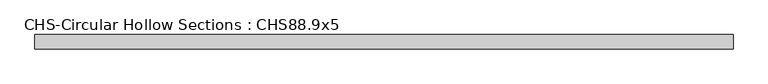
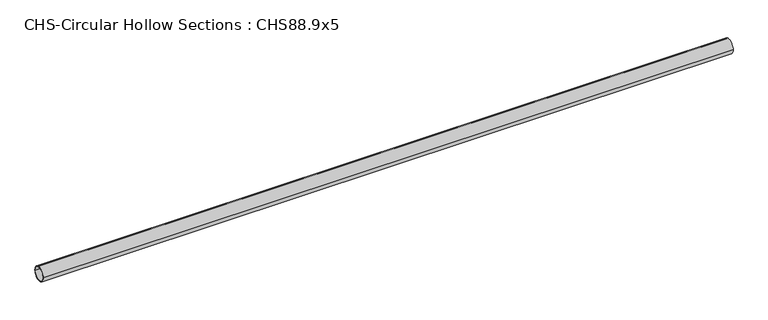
"""IFC4 building model written with IfcOpenShell, lengths in millimetres: beam geometry, CHS-Circular Hollow Sections : CHS88.9x5."""

from ifc_helpers import new_model, si_unit, point, frame, origin, origin_2d, place, context, project, spatial, circle_curve, trimmed, segment, composite_curve, outline, extrude, source, transform, mapped, element, save


def chs_circular_hollow_sections_chs88_9x5_aee6d157(model_context):
    return source(origin(), model_context, "Body", "SweptSolid", [
        extrude(outline(composite_curve([segment(trimmed(circle_curve(origin_2d(), 44.45), [point((-44.45, 0.0))], [point((44.45, 0.0))], False, "CARTESIAN"), True, "CONTINUOUS"), segment(trimmed(circle_curve(origin_2d(), 44.45), [point((44.45, 0.0))], [point((-44.45, 0.0))], False, "CARTESIAN"), True, "CONTINUOUS")], self_intersect=False), holes=[composite_curve([segment(trimmed(circle_curve(origin_2d(), 39.45), [point((39.45, 0.0))], [point((-39.45, 0.0))], True, "CARTESIAN"), True, "CONTINUOUS"), segment(trimmed(circle_curve(origin_2d(), 39.45), [point((-39.45, 0.0))], [point((39.45, 0.0))], True, "CARTESIAN"), True, "CONTINUOUS")], self_intersect=False)]), frame((-2221.0, 0.0, 0.0), z_axis=(1.0, 0.0, 0.0), x_axis=(0.0, 1.0, 0.0)), (0.0, 0.0, 1.0), 4255.0),
    ])


if __name__ == "__main__":
    model = new_model("IFC4")
    model_context = context("Model", 3, world=origin())
    ifc_project = project(units=[si_unit("LENGTHUNIT", "METRE", prefix="MILLI")], contexts=[model_context])
    site = spatial("IfcSite", under=ifc_project)
    building = spatial("IfcBuilding", under=site)
    placement = place(None, origin())
    chs_circular_hollow_sections_chs88_9x5_shape = chs_circular_hollow_sections_chs88_9x5_aee6d157(model_context)
    element("IfcBeam", 1, ObjectType="CHS-Circular Hollow Sections : CHS88.9x5", at=placement, inside=building, context=model_context, shape_type="MappedRepresentation", body=[
        mapped(chs_circular_hollow_sections_chs88_9x5_shape, transform((0.0, 0.0, 0.0), x_axis=(1.0, 0.0, 0.0), y_axis=(0.0, 1.0, 0.0), z_axis=(0.0, 0.0, 1.0))),
    ])
    save(model, "model.ifc")
